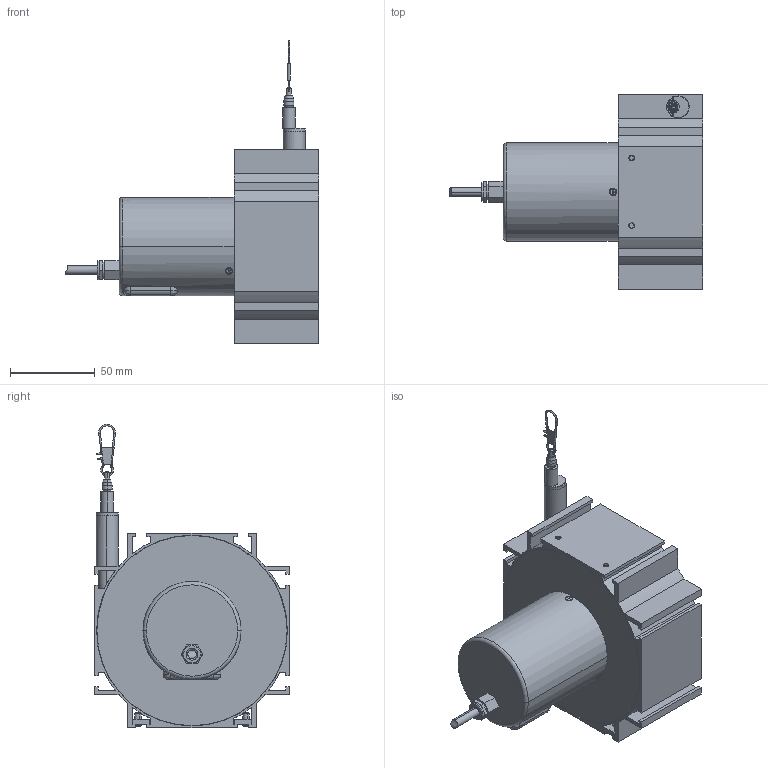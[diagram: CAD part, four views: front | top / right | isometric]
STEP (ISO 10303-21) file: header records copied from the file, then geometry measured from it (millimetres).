
FILE_DESCRIPTION((''),'2;1');
FILE_NAME('','2007-03-21T',(''),(''),'PRO/ENGINEER BY PARAMETRIC TECHNOLOGY CORPORATION, 2003250','PRO/ENGINEER BY PARAMETRIC TECHNOLOGY CORPORATION, 2003250','');
FILE_SCHEMA(('CONFIG_CONTROL_DESIGN'));
Length unit declared in the file: millimetre
Bounding box: 149.74 x 115 x 179.5 mm (x, y, z)
Volume: 264485.8 mm3; surface area: 129101.2 mm2
Topology: 1 solids, 7 shells, 574 faces, 1464 edges, 926 vertices
Faces by surface type: plane 263, cylinder 186, cone 72, torus 36, bspline 14, sphere 2, extrusion 1
Entity records: 18511 total; most frequent: CARTESIAN_POINT 4516, DIRECTION 2942, ORIENTED_EDGE 2880, EDGE_CURVE 1440, AXIS2_PLACEMENT_3D 1066, VERTEX_POINT 926, VECTOR 810, LINE 809
